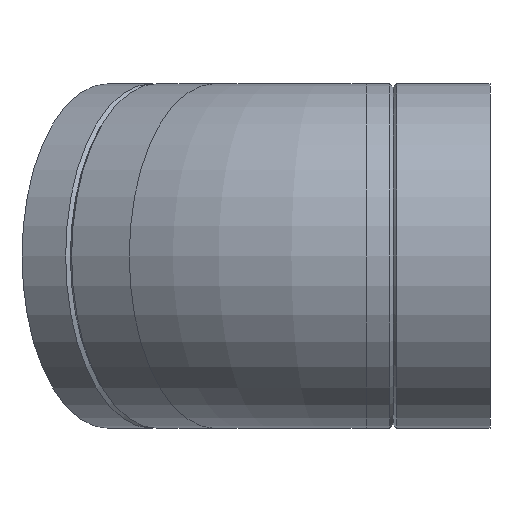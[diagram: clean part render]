
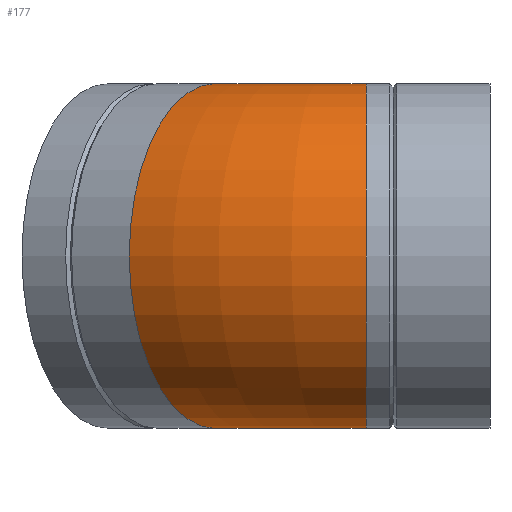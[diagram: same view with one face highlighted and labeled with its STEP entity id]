
A CAD part, left-side view. The second image highlights one B-rep face of the part: STEP entity #177.
In plain terms, the highlighted toroidal (fillet/blend) face has major radius 140 mm and minor radius 80 mm.
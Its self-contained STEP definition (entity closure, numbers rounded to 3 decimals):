
#15=TOROIDAL_SURFACE($,#207,140.,80.);
#32=FACE_BOUND($,#71,.T.);
#48=FACE_OUTER_BOUND($,#70,.T.);
#70=EDGE_LOOP($,(#140));
#71=EDGE_LOOP($,(#141));
#85=CIRCLE($,#197,80.);
#90=CIRCLE($,#206,80.);
#99=VERTEX_POINT($,#291);
#104=VERTEX_POINT($,#305);
#113=EDGE_CURVE($,#99,#99,#85,.T.);
#118=EDGE_CURVE($,#104,#104,#90,.T.);
#140=ORIENTED_EDGE($,*,*,#118,.T.);
#141=ORIENTED_EDGE($,*,*,#113,.F.);
#177=ADVANCED_FACE($,(#48,#32),#15,.T.);
#197=AXIS2_PLACEMENT_3D($,#292,#240,#241);
#206=AXIS2_PLACEMENT_3D($,#306,#258,#259);
#207=AXIS2_PLACEMENT_3D($,#307,#260,#261);
#240=DIRECTION('center_axis',(0.,-1.,0.));
#241=DIRECTION('ref_axis',(1.,0.,0.));
#258=DIRECTION('center_axis',(-0.5,-0.866,0.));
#259=DIRECTION('ref_axis',(0.866,-0.5,0.));
#260=DIRECTION('center_axis',(0.,0.,-1.));
#261=DIRECTION('ref_axis',(-1.,0.,0.));
#291=CARTESIAN_POINT('',(-80.,57.487,0.));
#292=CARTESIAN_POINT('Origin',(0.,57.487,0.));
#305=CARTESIAN_POINT('',(-50.526,167.487,0.));
#306=CARTESIAN_POINT('Origin',(18.756,127.487,0.));
#307=CARTESIAN_POINT('Origin',(140.,57.487,0.));
